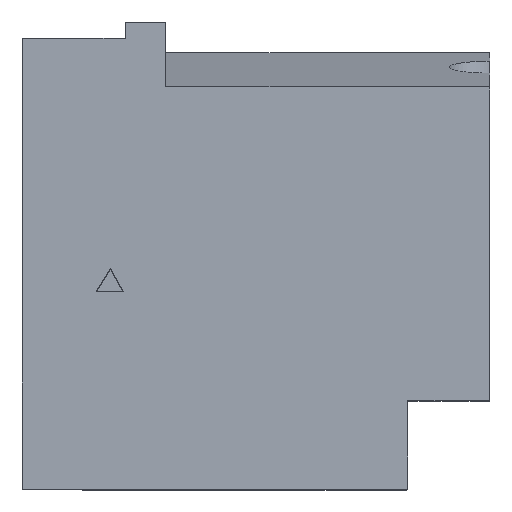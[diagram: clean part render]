
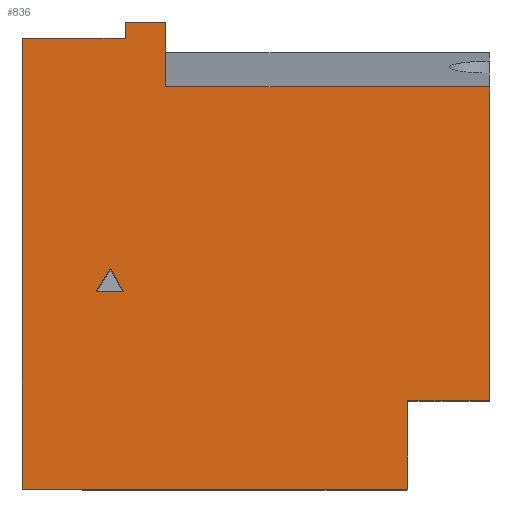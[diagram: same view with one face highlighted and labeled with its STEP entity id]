
A CAD part, top view. The second image highlights one B-rep face of the part: STEP entity #836.
In plain terms, the highlighted planar face has unit normal (0, 0, 1).
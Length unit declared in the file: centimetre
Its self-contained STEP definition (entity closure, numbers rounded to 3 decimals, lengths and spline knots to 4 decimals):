
#9 = VERTEX_POINT ( 'NONE', #30 ) ;
#19 = LINE ( 'NONE', #39, #853 ) ;
#24 = LINE ( 'NONE', #741, #373 ) ;
#30 = CARTESIAN_POINT ( 'NONE',  ( 0., 0., 1000. ) ) ;
#39 = CARTESIAN_POINT ( 'NONE',  ( 219.9361, 1000., 1000. ) ) ;
#70 = ORIENTED_EDGE ( 'NONE', *, *, #1254, .F. ) ;
#74 = DIRECTION ( 'NONE',  ( 1., 0., 0. ) ) ;
#79 = EDGE_CURVE ( 'NONE', #588, #9, #1003, .T. ) ;
#89 = CARTESIAN_POINT ( 'NONE',  ( 0., 1000., 1000. ) ) ;
#120 = VECTOR ( 'NONE', #983, 100. ) ;
#122 = DIRECTION ( 'NONE',  ( 0., 1., 0. ) ) ;
#124 = ORIENTED_EDGE ( 'NONE', *, *, #321, .F. ) ;
#151 = VECTOR ( 'NONE', #503, 100. ) ;
#168 = VERTEX_POINT ( 'NONE', #1160 ) ;
#171 = CARTESIAN_POINT ( 'NONE',  ( 306.76, 860.8792, 1000. ) ) ;
#183 = LINE ( 'NONE', #592, #1227 ) ;
#184 = DIRECTION ( 'NONE',  ( 1., 0., 0. ) ) ;
#202 = ORIENTED_EDGE ( 'NONE', *, *, #542, .T. ) ;
#212 = DIRECTION ( 'NONE',  ( -0.528, -0.849, 0. ) ) ;
#229 = CARTESIAN_POINT ( 'NONE',  ( 1000., 1000., 1000. ) ) ;
#231 = EDGE_CURVE ( 'NONE', #241, #693, #183, .T. ) ;
#235 = ORIENTED_EDGE ( 'NONE', *, *, #1143, .T. ) ;
#237 = CARTESIAN_POINT ( 'NONE',  ( 0., 0., 1000. ) ) ;
#241 = VERTEX_POINT ( 'NONE', #492 ) ;
#267 = LINE ( 'NONE', #667, #120 ) ;
#287 = VERTEX_POINT ( 'NONE', #1178 ) ;
#296 = CARTESIAN_POINT ( 'NONE',  ( 0., 0., 1000. ) ) ;
#312 = EDGE_CURVE ( 'NONE', #693, #344, #1091, .T. ) ;
#321 = EDGE_CURVE ( 'NONE', #749, #287, #619, .T. ) ;
#325 = EDGE_LOOP ( 'NONE', ( #927, #1189, #1033, #814, #202, #235, #124, #781, #825, #70 ) ) ;
#326 = VECTOR ( 'NONE', #735, 100. ) ;
#327 = CARTESIAN_POINT ( 'NONE',  ( 157.5586, 422.2611, 1000. ) ) ;
#342 = DIRECTION ( 'NONE',  ( 1., 0., 0. ) ) ;
#344 = VERTEX_POINT ( 'NONE', #1029 ) ;
#373 = VECTOR ( 'NONE', #527, 100. ) ;
#402 = VECTOR ( 'NONE', #435, 100. ) ;
#404 = PLANE ( 'NONE',  #541 ) ;
#407 = EDGE_CURVE ( 'NONE', #168, #788, #1215, .T. ) ;
#414 = VECTOR ( 'NONE', #736, 100. ) ;
#423 = VECTOR ( 'NONE', #184, 100. ) ;
#435 = DIRECTION ( 'NONE',  ( -1., 0., 0. ) ) ;
#492 = CARTESIAN_POINT ( 'NONE',  ( 215.9924, 422.2611, 1000. ) ) ;
#503 = DIRECTION ( 'NONE',  ( 0., -1., 0. ) ) ;
#527 = DIRECTION ( 'NONE',  ( 0., -1., 0. ) ) ;
#538 = CARTESIAN_POINT ( 'NONE',  ( 0., 1000., 1000. ) ) ;
#541 = AXIS2_PLACEMENT_3D ( 'NONE', #296, #607, #74 ) ;
#542 = EDGE_CURVE ( 'NONE', #802, #678, #1261, .T. ) ;
#556 = CARTESIAN_POINT ( 'NONE',  ( 188.4407, 471.9049, 1000. ) ) ;
#560 = VECTOR ( 'NONE', #342, 100. ) ;
#588 = VERTEX_POINT ( 'NONE', #775 ) ;
#592 = CARTESIAN_POINT ( 'NONE',  ( 215.9924, 422.2611, 1000. ) ) ;
#596 = VERTEX_POINT ( 'NONE', #1059 ) ;
#607 = DIRECTION ( 'NONE',  ( 0., 0., 1. ) ) ;
#619 = LINE ( 'NONE', #784, #423 ) ;
#622 = EDGE_CURVE ( 'NONE', #638, #588, #267, .T. ) ;
#638 = VERTEX_POINT ( 'NONE', #996 ) ;
#655 = VECTOR ( 'NONE', #970, 100. ) ;
#667 = CARTESIAN_POINT ( 'NONE',  ( 219.9361, 964.8833, 1000. ) ) ;
#671 = CARTESIAN_POINT ( 'NONE',  ( 1000., 189.4324, 1000. ) ) ;
#678 = VERTEX_POINT ( 'NONE', #671 ) ;
#693 = VERTEX_POINT ( 'NONE', #556 ) ;
#715 = ORIENTED_EDGE ( 'NONE', *, *, #312, .F. ) ;
#735 = DIRECTION ( 'NONE',  ( 0., 1., 0. ) ) ;
#736 = DIRECTION ( 'NONE',  ( 0., 1., 0. ) ) ;
#741 = CARTESIAN_POINT ( 'NONE',  ( 306.76, 1000., 1000. ) ) ;
#749 = VERTEX_POINT ( 'NONE', #171 ) ;
#759 = ORIENTED_EDGE ( 'NONE', *, *, #231, .F. ) ;
#768 = CARTESIAN_POINT ( 'NONE',  ( 824.7258, 189.4324, 1000. ) ) ;
#775 = CARTESIAN_POINT ( 'NONE',  ( 0., 964.8833, 1000. ) ) ;
#781 = ORIENTED_EDGE ( 'NONE', *, *, #1066, .F. ) ;
#784 = CARTESIAN_POINT ( 'NONE',  ( 306.76, 860.8792, 1000. ) ) ;
#788 = VERTEX_POINT ( 'NONE', #1086 ) ;
#802 = VERTEX_POINT ( 'NONE', #895 ) ;
#814 = ORIENTED_EDGE ( 'NONE', *, *, #1036, .T. ) ;
#825 = ORIENTED_EDGE ( 'NONE', *, *, #407, .T. ) ;
#833 = CARTESIAN_POINT ( 'NONE',  ( 824.7258, 0., 1000. ) ) ;
#836 = ADVANCED_FACE ( 'NONE', ( #986, #1294 ), #404, .T. ) ;
#853 = VECTOR ( 'NONE', #122, 100. ) ;
#895 = CARTESIAN_POINT ( 'NONE',  ( 824.7258, 189.4324, 1000. ) ) ;
#927 = ORIENTED_EDGE ( 'NONE', *, *, #622, .T. ) ;
#942 = LINE ( 'NONE', #229, #414 ) ;
#970 = DIRECTION ( 'NONE',  ( 1., 0., 0. ) ) ;
#983 = DIRECTION ( 'NONE',  ( -1., 0., 0. ) ) ;
#986 = FACE_OUTER_BOUND ( 'NONE', #325, .T. ) ;
#990 = DIRECTION ( 'NONE',  ( -0.485, 0.874, 0. ) ) ;
#994 = EDGE_LOOP ( 'NONE', ( #759, #1017, #715 ) ) ;
#996 = CARTESIAN_POINT ( 'NONE',  ( 219.9361, 964.8833, 1000. ) ) ;
#1003 = LINE ( 'NONE', #89, #151 ) ;
#1017 = ORIENTED_EDGE ( 'NONE', *, *, #1102, .F. ) ;
#1029 = CARTESIAN_POINT ( 'NONE',  ( 157.5586, 422.2611, 1000. ) ) ;
#1033 = ORIENTED_EDGE ( 'NONE', *, *, #1151, .T. ) ;
#1036 = EDGE_CURVE ( 'NONE', #596, #802, #1208, .T. ) ;
#1051 = LINE ( 'NONE', #237, #1240 ) ;
#1059 = CARTESIAN_POINT ( 'NONE',  ( 824.7258, 0., 1000. ) ) ;
#1066 = EDGE_CURVE ( 'NONE', #168, #749, #24, .T. ) ;
#1086 = CARTESIAN_POINT ( 'NONE',  ( 219.9361, 1000., 1000. ) ) ;
#1091 = LINE ( 'NONE', #1110, #1187 ) ;
#1102 = EDGE_CURVE ( 'NONE', #344, #241, #1218, .T. ) ;
#1110 = CARTESIAN_POINT ( 'NONE',  ( 188.4407, 471.9049, 1000. ) ) ;
#1143 = EDGE_CURVE ( 'NONE', #678, #287, #942, .T. ) ;
#1151 = EDGE_CURVE ( 'NONE', #9, #596, #1051, .T. ) ;
#1160 = CARTESIAN_POINT ( 'NONE',  ( 306.76, 1000., 1000. ) ) ;
#1178 = CARTESIAN_POINT ( 'NONE',  ( 1000., 860.8792, 1000. ) ) ;
#1187 = VECTOR ( 'NONE', #212, 100. ) ;
#1189 = ORIENTED_EDGE ( 'NONE', *, *, #79, .T. ) ;
#1208 = LINE ( 'NONE', #833, #326 ) ;
#1215 = LINE ( 'NONE', #538, #402 ) ;
#1218 = LINE ( 'NONE', #327, #560 ) ;
#1220 = DIRECTION ( 'NONE',  ( 1., 0., 0. ) ) ;
#1227 = VECTOR ( 'NONE', #990, 100. ) ;
#1240 = VECTOR ( 'NONE', #1220, 100. ) ;
#1254 = EDGE_CURVE ( 'NONE', #638, #788, #19, .T. ) ;
#1261 = LINE ( 'NONE', #768, #655 ) ;
#1294 = FACE_BOUND ( 'NONE', #994, .T. ) ;
